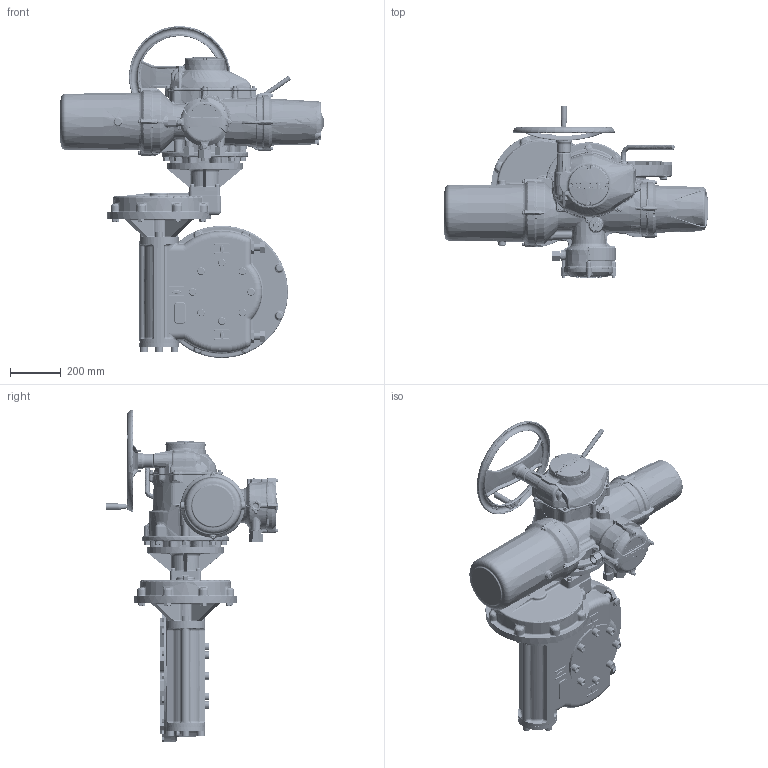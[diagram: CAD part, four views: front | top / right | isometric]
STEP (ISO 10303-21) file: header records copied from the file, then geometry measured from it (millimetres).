
FILE_DESCRIPTION( ( 'Unknown' ), '1' );
FILE_NAME( 'S:/Release/InstallationDrgs-IQmk3/Datasheets for Bishams release program/IQMK3 DATASHEETS/IQ5-91,IW7 - 11 & 13/II5-91-SHWIW8RHSTD-1.stp', 'Unknown', ( 'Unknown' ), ( 'Unknown' ), 'PSStep 16.0.42', 'Unknown', ' ' );
FILE_SCHEMA( ( 'AUTOMOTIVE_DESIGN { 1 0 10303 214 1 1 1 1 }' ) );
Length unit declared in the file: millimetre
Products named in the file (10): II0-55-std
Bounding box: 1041.8 x 680.05 x 1305.41 mm (x, y, z)
Volume: 1840482.3 mm3; surface area: 3358179.8 mm2
Topology: 85 solids, 87 shells, 8907 faces, 21773 edges, 12859 vertices
Faces by surface type: bspline 2869, plane 2455, cylinder 1380, torus 973, cone 797, sphere 266, extrusion 128, revolution 21, offset 18
Full cylindrical faces by diameter (mm): 1.152 x1, 3 x10, 3.5 x1, 6 x5, 6.45 x4, 6.47 x4, 6.5 x1, 6.647 x8, 7 x4, 7.6 x4, 8 x21, 8.1 x1, 8.2 x1, 8.3 x2, 8.376 x1, 8.5 x4, 9.7 x1, 10 x1, 12 x6, 12.1 x1, 13 x12, 13.25 x11, 13.548 x1, 13.55 x1, 13.835 x16, 16 x33, 16.5 x16, 16.75 x1, 17 x8, 18 x9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
Entity records: 822183 total; most frequent: CARTESIAN_POINT 570370, ORIENTED_EDGE 40788, DIRECTION 32473, EDGE_CURVE 20394, AXIS2_PLACEMENT_3D 13628, VERTEX_POINT 12487, EDGE_LOOP 9853, FACE_OUTER_BOUND 9290
